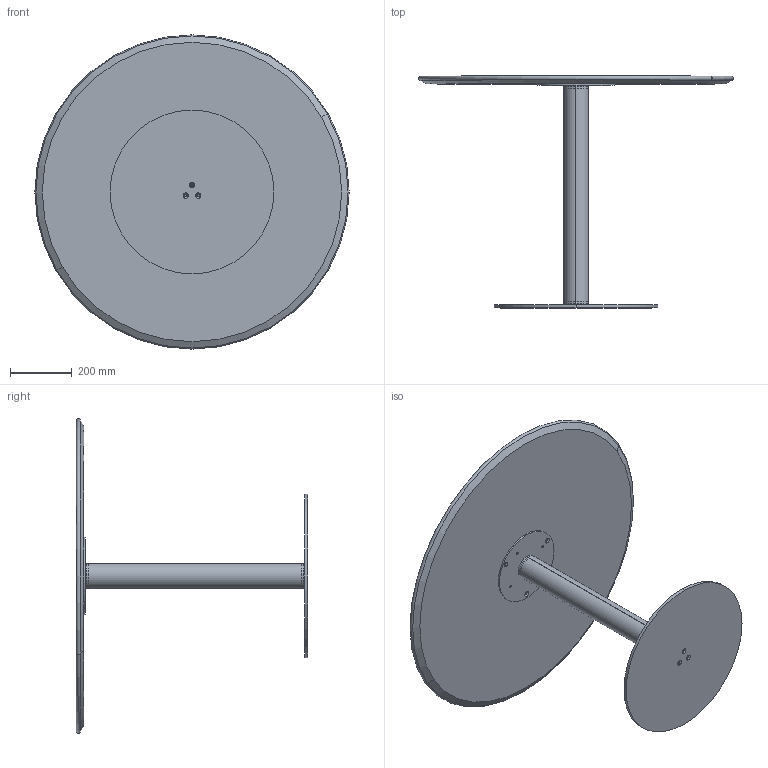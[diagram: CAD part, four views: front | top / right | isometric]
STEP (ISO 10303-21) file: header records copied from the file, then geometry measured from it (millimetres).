
FILE_DESCRIPTION (( 'STEP AP203' ), '1' );
FILE_NAME ('CB30B.STEP', '2024-08-08T08:32:37', ( '' ), ( '' ), 'SwSTEP 2.0', 'SolidWorks 2022', '' );
FILE_SCHEMA (( 'CONFIG_CONTROL_DESIGN' ));
Length unit declared in the file: millimetre
Products named in the file (7): CBS200000PST-00-CONTROPIASTRA PER PIASTRA D.25cm GREZZO_250; BOMB0001-00-PIANO LEGNO CON INCASSO Ø100_MDF per Ø100cm; CBS000000BAS-00-BISTRO PIASTRA INFERIORE_D.530; K1XCMXX-00-Piani Rotondi in ceramica_D.1000 SOLO CERAMICA SP.6mm; CBS000000COL-00-CILINDRO BISTRO COLONNA H75; Assieme piani incassatti ceramica_Ø100cm; CB30B
Assembly tree (6 placements, depth 3):
  CB30B
    CBS000000BAS-00-BISTRO PIASTRA INFERIORE_D.530
    CBS200000PST-00-CONTROPIASTRA PER PIASTRA D.25cm GREZZO_250
    CBS000000COL-00-CILINDRO BISTRO COLONNA H75
    Assieme piani incassatti ceramica_Ø100cm
      BOMB0001-00-PIANO LEGNO CON INCASSO Ø100_MDF per Ø100cm
      K1XCMXX-00-Piani Rotondi in ceramica_D.1000 SOLO CERAMICA SP.6mm
Bounding box: 1017 x 750 x 1017 mm (x, y, z)
Volume: 22559907.3 mm3; surface area: 4198952.8 mm2
Topology: 7 solids, 7 shells, 107 faces, 248 edges, 156 vertices
Faces by surface type: cylinder 62, cone 28, plane 15, torus 2
Entity records: 3933 total; most frequent: DIRECTION 640, CARTESIAN_POINT 521, ORIENTED_EDGE 496, AXIS2_PLACEMENT_3D 275, EDGE_CURVE 248, CIRCLE 158, VERTEX_POINT 156, EDGE_LOOP 156
